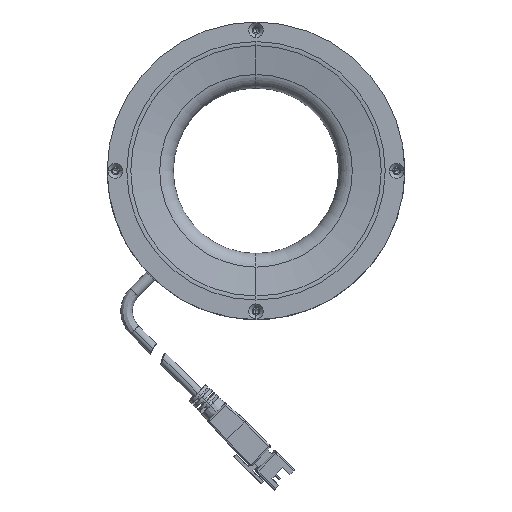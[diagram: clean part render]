
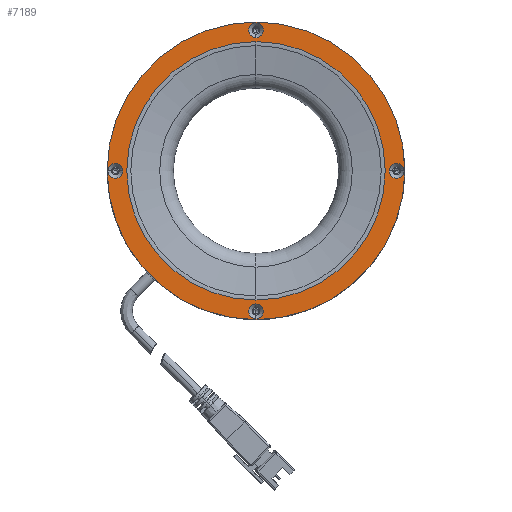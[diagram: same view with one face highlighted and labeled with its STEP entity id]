
A CAD part, front view. The second image highlights one B-rep face of the part: STEP entity #7189.
In plain terms, the highlighted planar face has unit normal (0, -1, 0).
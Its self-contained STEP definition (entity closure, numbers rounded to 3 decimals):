
#161 = DIRECTION ( 'NONE',  ( 0., 1., 0. ) ) ;
#249 = EDGE_LOOP ( 'NONE', ( #1154, #3988 ) ) ;
#303 = ORIENTED_EDGE ( 'NONE', *, *, #12096, .F. ) ;
#585 = CARTESIAN_POINT ( 'NONE',  ( 0., 0., -40.25 ) ) ;
#667 = CARTESIAN_POINT ( 'NONE',  ( 0., 0., 0. ) ) ;
#868 = DIRECTION ( 'NONE',  ( 0., 0., -1. ) ) ;
#1044 = CARTESIAN_POINT ( 'NONE',  ( 0., 0., -45. ) ) ;
#1141 = FACE_BOUND ( 'NONE', #6244, .T. ) ;
#1154 = ORIENTED_EDGE ( 'NONE', *, *, #1795, .F. ) ;
#1206 = CARTESIAN_POINT ( 'NONE',  ( 0., 0., 45. ) ) ;
#1348 = AXIS2_PLACEMENT_3D ( 'NONE', #4198, #7190, #11173 ) ;
#1419 = CIRCLE ( 'NONE', #12684, 2.25 ) ;
#1537 = ORIENTED_EDGE ( 'NONE', *, *, #10373, .T. ) ;
#1569 = VERTEX_POINT ( 'NONE', #8020 ) ;
#1633 = CARTESIAN_POINT ( 'NONE',  ( 0., 0., 42.5 ) ) ;
#1691 = DIRECTION ( 'NONE',  ( 0., -1., 0. ) ) ;
#1760 = CIRCLE ( 'NONE', #5490, 39.069 ) ;
#1795 = EDGE_CURVE ( 'NONE', #2352, #9472, #7156, .T. ) ;
#1904 = CARTESIAN_POINT ( 'NONE',  ( -40.25, 0., 0. ) ) ;
#1911 = CARTESIAN_POINT ( 'NONE',  ( 0., 0., 42.5 ) ) ;
#2051 = ORIENTED_EDGE ( 'NONE', *, *, #11266, .F. ) ;
#2069 = FACE_BOUND ( 'NONE', #3390, .T. ) ;
#2293 = VERTEX_POINT ( 'NONE', #10848 ) ;
#2352 = VERTEX_POINT ( 'NONE', #1206 ) ;
#2471 = VERTEX_POINT ( 'NONE', #10251 ) ;
#2613 = DIRECTION ( 'NONE',  ( 0., -1., 0. ) ) ;
#2800 = CIRCLE ( 'NONE', #3840, 39.069 ) ;
#2808 = CARTESIAN_POINT ( 'NONE',  ( 42.5, 0., 0. ) ) ;
#2837 = AXIS2_PLACEMENT_3D ( 'NONE', #5734, #2613, #7422 ) ;
#2995 = ORIENTED_EDGE ( 'NONE', *, *, #12383, .F. ) ;
#3039 = CIRCLE ( 'NONE', #3433, 45. ) ;
#3331 = VERTEX_POINT ( 'NONE', #8755 ) ;
#3390 = EDGE_LOOP ( 'NONE', ( #10019, #9782 ) ) ;
#3433 = AXIS2_PLACEMENT_3D ( 'NONE', #7530, #11510, #7331 ) ;
#3584 = DIRECTION ( 'NONE',  ( 0., 0., -1. ) ) ;
#3642 = EDGE_LOOP ( 'NONE', ( #303, #2051 ) ) ;
#3772 = VERTEX_POINT ( 'NONE', #1904 ) ;
#3784 = DIRECTION ( 'NONE',  ( -1., 0., 0. ) ) ;
#3840 = AXIS2_PLACEMENT_3D ( 'NONE', #11940, #161, #5998 ) ;
#3862 = CARTESIAN_POINT ( 'NONE',  ( 0., 0., -42.5 ) ) ;
#3866 = DIRECTION ( 'NONE',  ( 0., 0., 1. ) ) ;
#3929 = CARTESIAN_POINT ( 'NONE',  ( -42.5, 0., 0. ) ) ;
#3988 = ORIENTED_EDGE ( 'NONE', *, *, #11773, .F. ) ;
#4047 = DIRECTION ( 'NONE',  ( 0., 1., 0. ) ) ;
#4195 = AXIS2_PLACEMENT_3D ( 'NONE', #4303, #7352, #6301 ) ;
#4198 = CARTESIAN_POINT ( 'NONE',  ( 0., 0., 0. ) ) ;
#4225 = DIRECTION ( 'NONE',  ( 0., 0., 1. ) ) ;
#4261 = CIRCLE ( 'NONE', #7168, 2.25 ) ;
#4303 = CARTESIAN_POINT ( 'NONE',  ( -42.5, 0., 0. ) ) ;
#4340 = ORIENTED_EDGE ( 'NONE', *, *, #10878, .T. ) ;
#4479 = DIRECTION ( 'NONE',  ( 0., 1., 0. ) ) ;
#4757 = CARTESIAN_POINT ( 'NONE',  ( 0., 0., -39.069 ) ) ;
#4909 = VERTEX_POINT ( 'NONE', #10767 ) ;
#4915 = EDGE_CURVE ( 'NONE', #11854, #6349, #9952, .T. ) ;
#5092 = CIRCLE ( 'NONE', #11549, 2.25 ) ;
#5178 = FACE_OUTER_BOUND ( 'NONE', #249, .T. ) ;
#5378 = EDGE_LOOP ( 'NONE', ( #1537, #4340 ) ) ;
#5445 = ORIENTED_EDGE ( 'NONE', *, *, #6487, .F. ) ;
#5490 = AXIS2_PLACEMENT_3D ( 'NONE', #667, #4047, #3866 ) ;
#5734 = CARTESIAN_POINT ( 'NONE',  ( 42.5, 0., 0. ) ) ;
#5998 = DIRECTION ( 'NONE',  ( 0., 0., 1. ) ) ;
#6012 = CARTESIAN_POINT ( 'NONE',  ( 0., 0., -44.75 ) ) ;
#6054 = DIRECTION ( 'NONE',  ( 0., -1., 0. ) ) ;
#6244 = EDGE_LOOP ( 'NONE', ( #9498, #7633 ) ) ;
#6301 = DIRECTION ( 'NONE',  ( 1., 0., 0. ) ) ;
#6349 = VERTEX_POINT ( 'NONE', #585 ) ;
#6487 = EDGE_CURVE ( 'NONE', #2293, #4909, #1419, .T. ) ;
#6555 = VERTEX_POINT ( 'NONE', #4757 ) ;
#6593 = AXIS2_PLACEMENT_3D ( 'NONE', #3862, #9728, #8744 ) ;
#6631 = DIRECTION ( 'NONE',  ( 0., -1., 0. ) ) ;
#6701 = EDGE_LOOP ( 'NONE', ( #5445, #2995 ) ) ;
#6775 = CIRCLE ( 'NONE', #2837, 2.25 ) ;
#7156 = CIRCLE ( 'NONE', #9668, 45. ) ;
#7168 = AXIS2_PLACEMENT_3D ( 'NONE', #9574, #1691, #8665 ) ;
#7189 = ADVANCED_FACE ( 'NONE', ( #9147, #2069, #1141, #9956, #10915, #5178 ), #9149, .T. ) ;
#7190 = DIRECTION ( 'NONE',  ( 0., -1., 0. ) ) ;
#7331 = DIRECTION ( 'NONE',  ( 0., 0., 1. ) ) ;
#7352 = DIRECTION ( 'NONE',  ( 0., -1., 0. ) ) ;
#7422 = DIRECTION ( 'NONE',  ( -1., 0., 0. ) ) ;
#7530 = CARTESIAN_POINT ( 'NONE',  ( 0., 0., 0. ) ) ;
#7633 = ORIENTED_EDGE ( 'NONE', *, *, #9210, .F. ) ;
#7906 = DIRECTION ( 'NONE',  ( 0., -1., 0. ) ) ;
#7913 = VERTEX_POINT ( 'NONE', #9927 ) ;
#8020 = CARTESIAN_POINT ( 'NONE',  ( 0., 0., 40.25 ) ) ;
#8234 = CIRCLE ( 'NONE', #12835, 2.25 ) ;
#8400 = AXIS2_PLACEMENT_3D ( 'NONE', #3929, #7906, #11879 ) ;
#8559 = CIRCLE ( 'NONE', #4195, 2.25 ) ;
#8665 = DIRECTION ( 'NONE',  ( 0., 0., 1. ) ) ;
#8744 = DIRECTION ( 'NONE',  ( 0., 0., 1. ) ) ;
#8755 = CARTESIAN_POINT ( 'NONE',  ( 0., 0., 44.75 ) ) ;
#9147 = FACE_BOUND ( 'NONE', #6701, .T. ) ;
#9149 = PLANE ( 'NONE',  #1348 ) ;
#9210 = EDGE_CURVE ( 'NONE', #7913, #3772, #8559, .T. ) ;
#9309 = CARTESIAN_POINT ( 'NONE',  ( 0., 0., 0. ) ) ;
#9472 = VERTEX_POINT ( 'NONE', #1044 ) ;
#9498 = ORIENTED_EDGE ( 'NONE', *, *, #11029, .F. ) ;
#9574 = CARTESIAN_POINT ( 'NONE',  ( 0., 0., -42.5 ) ) ;
#9668 = AXIS2_PLACEMENT_3D ( 'NONE', #9309, #4479, #4225 ) ;
#9728 = DIRECTION ( 'NONE',  ( 0., -1., 0. ) ) ;
#9782 = ORIENTED_EDGE ( 'NONE', *, *, #4915, .F. ) ;
#9927 = CARTESIAN_POINT ( 'NONE',  ( -44.75, 0., 0. ) ) ;
#9952 = CIRCLE ( 'NONE', #6593, 2.25 ) ;
#9956 = FACE_BOUND ( 'NONE', #3642, .T. ) ;
#10019 = ORIENTED_EDGE ( 'NONE', *, *, #11263, .F. ) ;
#10251 = CARTESIAN_POINT ( 'NONE',  ( 0., 0., 39.069 ) ) ;
#10285 = CIRCLE ( 'NONE', #8400, 2.25 ) ;
#10373 = EDGE_CURVE ( 'NONE', #2471, #6555, #2800, .T. ) ;
#10482 = DIRECTION ( 'NONE',  ( 0., -1., 0. ) ) ;
#10767 = CARTESIAN_POINT ( 'NONE',  ( 44.75, 0., 0. ) ) ;
#10848 = CARTESIAN_POINT ( 'NONE',  ( 40.25, 0., 0. ) ) ;
#10878 = EDGE_CURVE ( 'NONE', #6555, #2471, #1760, .T. ) ;
#10915 = FACE_BOUND ( 'NONE', #5378, .T. ) ;
#11029 = EDGE_CURVE ( 'NONE', #3772, #7913, #10285, .T. ) ;
#11173 = DIRECTION ( 'NONE',  ( 0., 0., -1. ) ) ;
#11263 = EDGE_CURVE ( 'NONE', #6349, #11854, #4261, .T. ) ;
#11266 = EDGE_CURVE ( 'NONE', #3331, #1569, #5092, .T. ) ;
#11510 = DIRECTION ( 'NONE',  ( 0., 1., 0. ) ) ;
#11549 = AXIS2_PLACEMENT_3D ( 'NONE', #1633, #10482, #3584 ) ;
#11773 = EDGE_CURVE ( 'NONE', #9472, #2352, #3039, .T. ) ;
#11854 = VERTEX_POINT ( 'NONE', #6012 ) ;
#11879 = DIRECTION ( 'NONE',  ( 1., 0., 0. ) ) ;
#11940 = CARTESIAN_POINT ( 'NONE',  ( 0., 0., 0. ) ) ;
#12096 = EDGE_CURVE ( 'NONE', #1569, #3331, #8234, .T. ) ;
#12383 = EDGE_CURVE ( 'NONE', #4909, #2293, #6775, .T. ) ;
#12684 = AXIS2_PLACEMENT_3D ( 'NONE', #2808, #6631, #3784 ) ;
#12835 = AXIS2_PLACEMENT_3D ( 'NONE', #1911, #6054, #868 ) ;
